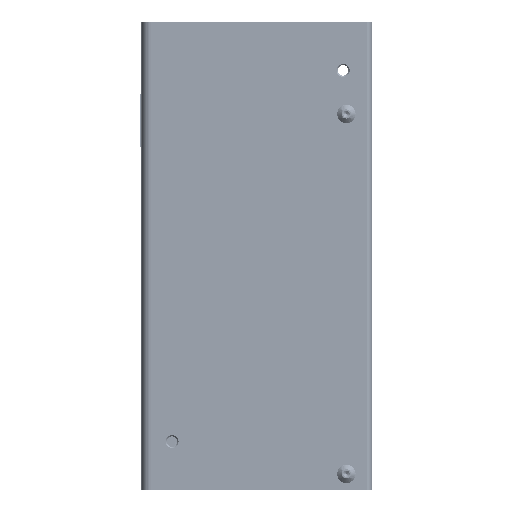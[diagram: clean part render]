
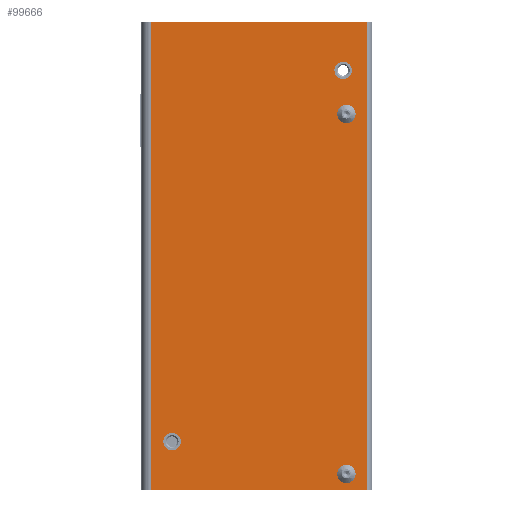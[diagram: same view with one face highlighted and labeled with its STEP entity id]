
A CAD part, left-side view. The second image highlights one B-rep face of the part: STEP entity #99666.
In plain terms, the highlighted planar face has unit normal (-1, 0, 0).
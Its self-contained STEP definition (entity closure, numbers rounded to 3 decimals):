
#3606 = DIRECTION ( 'NONE',  ( 0., -1., 0. ) ) ;
#4688 = DIRECTION ( 'NONE',  ( 0., 0., 1. ) ) ;
#5850 = EDGE_CURVE ( 'NONE', #225476, #266690, #180768, .T. ) ;
#10005 = FACE_OUTER_BOUND ( 'NONE', #199795, .T. ) ;
#19379 = VERTEX_POINT ( 'NONE', #152217 ) ;
#20103 = DIRECTION ( 'NONE',  ( 0., -1., 0. ) ) ;
#20930 = VECTOR ( 'NONE', #4688, 1000. ) ;
#22674 = VERTEX_POINT ( 'NONE', #270739 ) ;
#24086 = DIRECTION ( 'NONE',  ( 1., 0., 0. ) ) ;
#29220 = CIRCLE ( 'NONE', #39349, 2.705 ) ;
#30494 = AXIS2_PLACEMENT_3D ( 'NONE', #175500, #45324, #197403 ) ;
#30749 = CIRCLE ( 'NONE', #68141, 2.705 ) ;
#33431 = CARTESIAN_POINT ( 'NONE',  ( -120., 0., 0. ) ) ;
#37086 = VERTEX_POINT ( 'NONE', #90218 ) ;
#38974 = CIRCLE ( 'NONE', #189588, 1.75 ) ;
#39349 = AXIS2_PLACEMENT_3D ( 'NONE', #184957, #54812, #206874 ) ;
#43124 = ORIENTED_EDGE ( 'NONE', *, *, #216962, .T. ) ;
#45075 = ORIENTED_EDGE ( 'NONE', *, *, #259025, .T. ) ;
#45324 = DIRECTION ( 'NONE',  ( -1., 0., 0. ) ) ;
#49170 = CARTESIAN_POINT ( 'NONE',  ( -120., 7.5, -15. ) ) ;
#49545 = CARTESIAN_POINT ( 'NONE',  ( -120., 6.5, -140. ) ) ;
#54812 = DIRECTION ( 'NONE',  ( -1., 0., 0. ) ) ;
#55905 = DIRECTION ( 'NONE',  ( 1., 0., 0. ) ) ;
#62530 = EDGE_CURVE ( 'NONE', #19379, #181791, #29220, .T. ) ;
#67348 = ORIENTED_EDGE ( 'NONE', *, *, #5850, .T. ) ;
#67948 = FACE_BOUND ( 'NONE', #113760, .T. ) ;
#68141 = AXIS2_PLACEMENT_3D ( 'NONE', #280710, #150421, #20103 ) ;
#70675 = ORIENTED_EDGE ( 'NONE', *, *, #262061, .F. ) ;
#71027 = DIRECTION ( 'NONE',  ( 0., -1., 0. ) ) ;
#71409 = DIRECTION ( 'NONE',  ( 0., 0., -1. ) ) ;
#71977 = ORIENTED_EDGE ( 'NONE', *, *, #194172, .F. ) ;
#72188 = CARTESIAN_POINT ( 'NONE',  ( -120., 0., -145. ) ) ;
#74372 = ORIENTED_EDGE ( 'NONE', *, *, #271193, .T. ) ;
#74745 = FACE_BOUND ( 'NONE', #75442, .T. ) ;
#75442 = EDGE_LOOP ( 'NONE', ( #74372, #45075 ) ) ;
#75748 = CARTESIAN_POINT ( 'NONE',  ( -120., 67., 0. ) ) ;
#80707 = EDGE_CURVE ( 'NONE', #266690, #225476, #236448, .T. ) ;
#90218 = CARTESIAN_POINT ( 'NONE',  ( -120., 63.205, -130. ) ) ;
#94790 = VECTOR ( 'NONE', #281186, 1000. ) ;
#97363 = VERTEX_POINT ( 'NONE', #33431 ) ;
#99666 = ADVANCED_FACE ( 'NONE', ( #67948, #227804, #176753, #74745, #10005 ), #242331, .T. ) ;
#107093 = CARTESIAN_POINT ( 'NONE',  ( -120., 67., -145. ) ) ;
#107398 = VERTEX_POINT ( 'NONE', #166021 ) ;
#113760 = EDGE_LOOP ( 'NONE', ( #274725, #70675 ) ) ;
#117324 = CARTESIAN_POINT ( 'NONE',  ( -120., 6.5, -140. ) ) ;
#119241 = AXIS2_PLACEMENT_3D ( 'NONE', #240165, #55905, #202351 ) ;
#127499 = EDGE_LOOP ( 'NONE', ( #221293, #67348 ) ) ;
#129508 = VERTEX_POINT ( 'NONE', #163186 ) ;
#137242 = VERTEX_POINT ( 'NONE', #268852 ) ;
#139237 = DIRECTION ( 'NONE',  ( 0., 0., -1. ) ) ;
#142161 = DIRECTION ( 'NONE',  ( 0., 0., 1. ) ) ;
#143421 = EDGE_CURVE ( 'NONE', #212619, #97363, #252351, .T. ) ;
#150421 = DIRECTION ( 'NONE',  ( -1., 0., 0. ) ) ;
#151319 = LINE ( 'NONE', #272433, #209062 ) ;
#152217 = CARTESIAN_POINT ( 'NONE',  ( -120., 4.795, -15. ) ) ;
#152762 = LINE ( 'NONE', #107093, #94790 ) ;
#154371 = CARTESIAN_POINT ( 'NONE',  ( -120., 6.5, -28.5 ) ) ;
#157597 = CIRCLE ( 'NONE', #175483, 2.705 ) ;
#161532 = AXIS2_PLACEMENT_3D ( 'NONE', #281269, #198529, #3606 ) ;
#163186 = CARTESIAN_POINT ( 'NONE',  ( -120., 57.795, -130. ) ) ;
#166021 = CARTESIAN_POINT ( 'NONE',  ( -120., 6.5, -138.25 ) ) ;
#169313 = CIRCLE ( 'NONE', #235047, 1.75 ) ;
#171157 = AXIS2_PLACEMENT_3D ( 'NONE', #154371, #24086, #176176 ) ;
#173022 = ORIENTED_EDGE ( 'NONE', *, *, #244600, .F. ) ;
#175483 = AXIS2_PLACEMENT_3D ( 'NONE', #49170, #201257, #71027 ) ;
#175500 = CARTESIAN_POINT ( 'NONE',  ( -120., 60.5, -130. ) ) ;
#176176 = DIRECTION ( 'NONE',  ( 0., 0., -1. ) ) ;
#176251 = CARTESIAN_POINT ( 'NONE',  ( -120., 6.5, -26.75 ) ) ;
#176753 = FACE_BOUND ( 'NONE', #127499, .T. ) ;
#180768 = CIRCLE ( 'NONE', #119241, 1.75 ) ;
#181791 = VERTEX_POINT ( 'NONE', #213919 ) ;
#184957 = CARTESIAN_POINT ( 'NONE',  ( -120., 7.5, -15. ) ) ;
#185960 = DIRECTION ( 'NONE',  ( 0., -1., 0. ) ) ;
#188993 = CARTESIAN_POINT ( 'NONE',  ( -120., 6.5, -30.25 ) ) ;
#189588 = AXIS2_PLACEMENT_3D ( 'NONE', #49545, #201632, #71409 ) ;
#190189 = EDGE_CURVE ( 'NONE', #137242, #22674, #151319, .T. ) ;
#192398 = EDGE_LOOP ( 'NONE', ( #71977, #193620 ) ) ;
#192516 = CARTESIAN_POINT ( 'NONE',  ( -120., 6.5, -141.75 ) ) ;
#193620 = ORIENTED_EDGE ( 'NONE', *, *, #256243, .F. ) ;
#194172 = EDGE_CURVE ( 'NONE', #129508, #37086, #30749, .T. ) ;
#194387 = VECTOR ( 'NONE', #185960, 1000. ) ;
#197403 = DIRECTION ( 'NONE',  ( 0., -1., 0. ) ) ;
#198529 = DIRECTION ( 'NONE',  ( -1., 0., 0. ) ) ;
#199795 = EDGE_LOOP ( 'NONE', ( #173022, #243233, #43124, #232486 ) ) ;
#200560 = CARTESIAN_POINT ( 'NONE',  ( -120., 0., -145. ) ) ;
#201257 = DIRECTION ( 'NONE',  ( -1., 0., 0. ) ) ;
#201632 = DIRECTION ( 'NONE',  ( 1., 0., 0. ) ) ;
#202351 = DIRECTION ( 'NONE',  ( 0., 0., -1. ) ) ;
#206874 = DIRECTION ( 'NONE',  ( 0., -1., 0. ) ) ;
#209062 = VECTOR ( 'NONE', #142161, 1000. ) ;
#212619 = VERTEX_POINT ( 'NONE', #72188 ) ;
#213919 = CARTESIAN_POINT ( 'NONE',  ( -120., 10.205, -15. ) ) ;
#216962 = EDGE_CURVE ( 'NONE', #137242, #212619, #152762, .T. ) ;
#221293 = ORIENTED_EDGE ( 'NONE', *, *, #80707, .T. ) ;
#225476 = VERTEX_POINT ( 'NONE', #176251 ) ;
#227804 = FACE_BOUND ( 'NONE', #192398, .T. ) ;
#232486 = ORIENTED_EDGE ( 'NONE', *, *, #143421, .T. ) ;
#235047 = AXIS2_PLACEMENT_3D ( 'NONE', #117324, #269514, #139237 ) ;
#236448 = CIRCLE ( 'NONE', #171157, 1.75 ) ;
#240165 = CARTESIAN_POINT ( 'NONE',  ( -120., 6.5, -28.5 ) ) ;
#242331 = PLANE ( 'NONE',  #161532 ) ;
#243233 = ORIENTED_EDGE ( 'NONE', *, *, #190189, .F. ) ;
#244600 = EDGE_CURVE ( 'NONE', #22674, #97363, #252295, .T. ) ;
#252295 = LINE ( 'NONE', #75748, #194387 ) ;
#252351 = LINE ( 'NONE', #200560, #20930 ) ;
#256243 = EDGE_CURVE ( 'NONE', #37086, #129508, #273969, .T. ) ;
#259025 = EDGE_CURVE ( 'NONE', #107398, #276177, #169313, .T. ) ;
#262061 = EDGE_CURVE ( 'NONE', #181791, #19379, #157597, .T. ) ;
#266690 = VERTEX_POINT ( 'NONE', #188993 ) ;
#268852 = CARTESIAN_POINT ( 'NONE',  ( -120., 67., -145. ) ) ;
#269514 = DIRECTION ( 'NONE',  ( 1., 0., 0. ) ) ;
#270739 = CARTESIAN_POINT ( 'NONE',  ( -120., 67., 0. ) ) ;
#271193 = EDGE_CURVE ( 'NONE', #276177, #107398, #38974, .T. ) ;
#272433 = CARTESIAN_POINT ( 'NONE',  ( -120., 67., -145. ) ) ;
#273969 = CIRCLE ( 'NONE', #30494, 2.705 ) ;
#274725 = ORIENTED_EDGE ( 'NONE', *, *, #62530, .F. ) ;
#276177 = VERTEX_POINT ( 'NONE', #192516 ) ;
#280710 = CARTESIAN_POINT ( 'NONE',  ( -120., 60.5, -130. ) ) ;
#281186 = DIRECTION ( 'NONE',  ( 0., -1., 0. ) ) ;
#281269 = CARTESIAN_POINT ( 'NONE',  ( -120., 67., -145. ) ) ;
